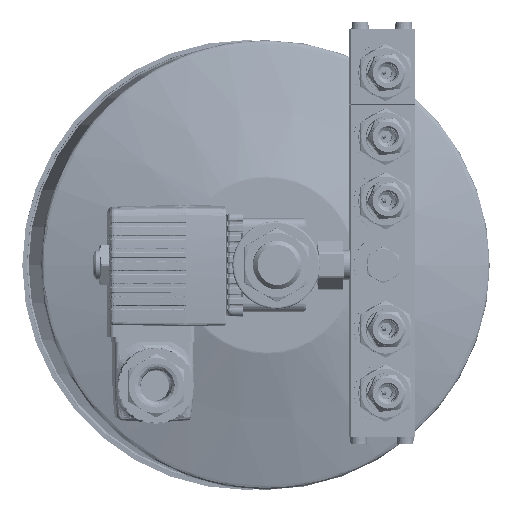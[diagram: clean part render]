
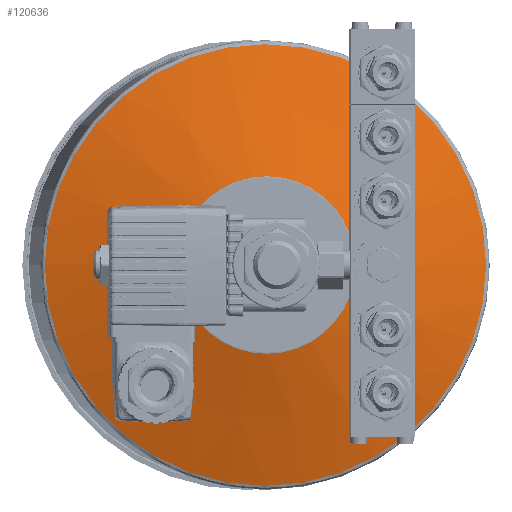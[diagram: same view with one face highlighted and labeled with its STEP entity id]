
A CAD part, left-side view. The second image highlights one B-rep face of the part: STEP entity #120636.
In plain terms, the highlighted conical face has half-angle 73.997 degrees and reference radius 75.769 mm.
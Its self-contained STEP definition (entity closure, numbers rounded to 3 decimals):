
#14983 = EDGE_LOOP ( 'NONE', ( #66875 ) ) ;
#15659 = AXIS2_PLACEMENT_3D ( 'NONE', #253913, #56353, #32031 ) ;
#15833 = VERTEX_POINT ( 'NONE', #232948 ) ;
#20737 = DIRECTION ( 'NONE',  ( 1., 0., 0. ) ) ;
#28861 = CONICAL_SURFACE ( 'NONE', #251275, 75.769, 1.291 ) ;
#32031 = DIRECTION ( 'NONE',  ( 0., -1., 0. ) ) ;
#37207 = AXIS2_PLACEMENT_3D ( 'NONE', #40800, #113691, #66729 ) ;
#40800 = CARTESIAN_POINT ( 'NONE',  ( 73.466, 0., 0. ) ) ;
#42808 = ORIENTED_EDGE ( 'NONE', *, *, #50651, .T. ) ;
#50651 = EDGE_CURVE ( 'NONE', #15833, #15833, #170738, .T. ) ;
#56353 = DIRECTION ( 'NONE',  ( -1., 0., 0. ) ) ;
#66729 = DIRECTION ( 'NONE',  ( 0., -1., 0. ) ) ;
#66875 = ORIENTED_EDGE ( 'NONE', *, *, #240354, .T. ) ;
#68249 = CIRCLE ( 'NONE', #37207, 30.469 ) ;
#69359 = CARTESIAN_POINT ( 'NONE',  ( 86.458, 0., 0. ) ) ;
#113691 = DIRECTION ( 'NONE',  ( 1., 0., 0. ) ) ;
#114696 = FACE_BOUND ( 'NONE', #14983, .T. ) ;
#117895 = FACE_OUTER_BOUND ( 'NONE', #217535, .T. ) ;
#120636 = ADVANCED_FACE ( 'NONE', ( #117895, #114696 ), #28861, .T. ) ;
#154022 = CARTESIAN_POINT ( 'NONE',  ( 73.466, -30.469, 0. ) ) ;
#170738 = CIRCLE ( 'NONE', #15659, 75.769 ) ;
#217535 = EDGE_LOOP ( 'NONE', ( #42808 ) ) ;
#232948 = CARTESIAN_POINT ( 'NONE',  ( 86.458, -75.769, 0. ) ) ;
#240354 = EDGE_CURVE ( 'NONE', #252877, #252877, #68249, .T. ) ;
#251275 = AXIS2_PLACEMENT_3D ( 'NONE', #69359, #20737, #263651 ) ;
#252877 = VERTEX_POINT ( 'NONE', #154022 ) ;
#253913 = CARTESIAN_POINT ( 'NONE',  ( 86.458, 0., 0. ) ) ;
#263651 = DIRECTION ( 'NONE',  ( 0., 0., -1. ) ) ;
